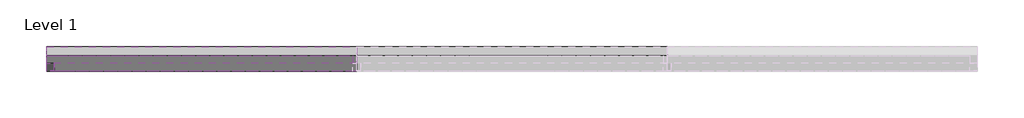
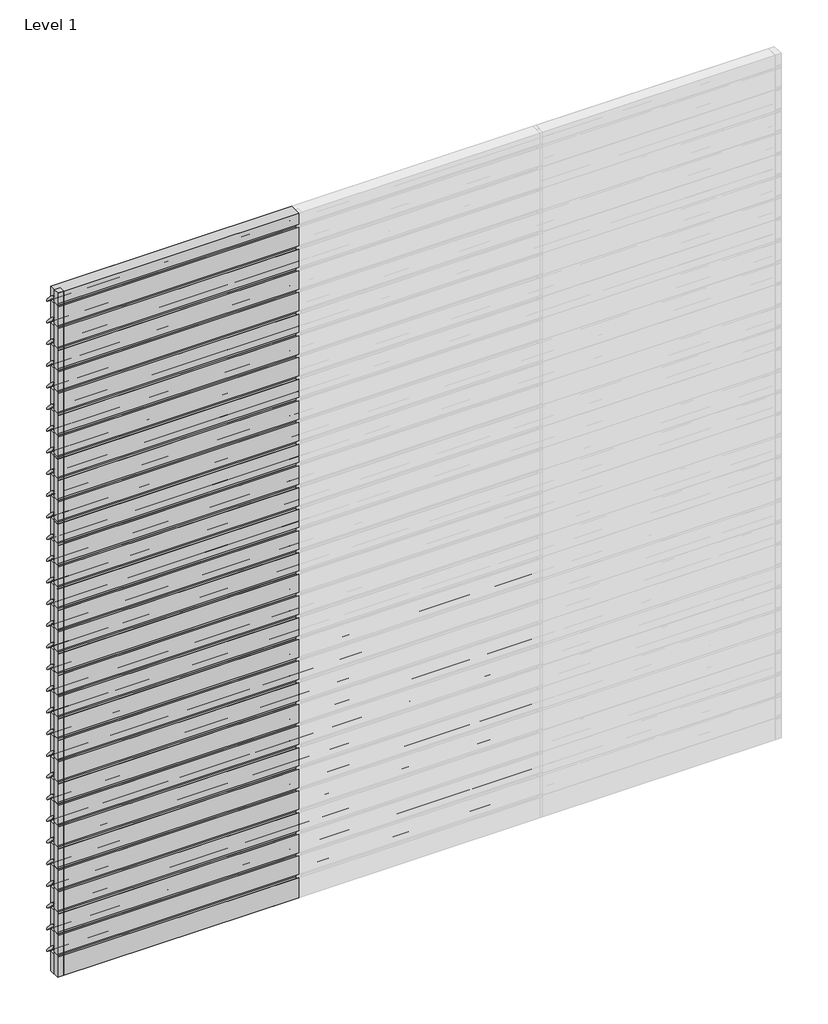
# One storey, part 1 of 3: 74 members, 64 plates.
"""IFC4 building model written with IfcOpenShell, lengths in millimetres."""

from ifc_helpers import new_model, si_unit, origin, place, context, project, spatial, transform, mapped, element, save
from components import rectangular_mullion_8734c8a8, rectangular_mullion_768f3252, rectangular_mullion_077c8cc5, empty_system_panel_empty_0e8c6ffc, empty_system_panel_empty_bbeb8583, empty_system_panel_empty_e07de6c1, empty_system_panel_empty_83ec7203, empty_system_panel_empty_71fd4c2e

model = new_model("IFC4")

# Units and contexts
model_context = context("Model", 3, world=origin())
ifc_project = project(units=[si_unit("LENGTHUNIT", "METRE", prefix="MILLI")], contexts=[model_context])

# Site, building, storey
site = spatial("IfcSite", under=ifc_project)
building = spatial("IfcBuilding", under=site)
storey = spatial("IfcBuildingStorey", under=building, Name="Level 1", Elevation=0.0)

# Members
placement = place(None, origin())
rectangular_mullion_shape = rectangular_mullion_8734c8a8(model_context)
element("IfcMember", 1, ObjectType="Rectangular Mullion : RSen_21_CWM_blade - 150 CF_gen_duco projects", at=placement, inside=storey, context=model_context, shape_type="MappedRepresentation", body=[
    mapped(rectangular_mullion_shape, transform((2000.0, 3000.0, 190.0), x_axis=(0.0, 0.0, 1.0), y_axis=(0.0, 1.0, 0.0), z_axis=(-1.0, 0.0, 0.0))),
])
element("IfcMember", 2, ObjectType="Rectangular Mullion : RSen_21_CWM_blade - 150 CF_gen_duco projects", at=placement, inside=storey, context=model_context, shape_type="MappedRepresentation", body=[
    mapped(rectangular_mullion_shape, transform((2000.0, 3000.0, 380.0), x_axis=(0.0, 0.0, 1.0), y_axis=(0.0, 1.0, 0.0), z_axis=(-1.0, 0.0, 0.0))),
])
element("IfcMember", 3, ObjectType="Rectangular Mullion : RSen_21_CWM_blade - 150 CF_gen_duco projects", at=placement, inside=storey, context=model_context, shape_type="MappedRepresentation", body=[
    mapped(rectangular_mullion_shape, transform((2000.0, 3000.0, 570.0), x_axis=(0.0, 0.0, 1.0), y_axis=(0.0, 1.0, 0.0), z_axis=(-1.0, 0.0, 0.0))),
])
element("IfcMember", 4, ObjectType="Rectangular Mullion : RSen_21_CWM_blade - 150 CF_gen_duco projects", at=placement, inside=storey, context=model_context, shape_type="MappedRepresentation", body=[
    mapped(rectangular_mullion_shape, transform((2000.0, 3000.0, 760.0), x_axis=(0.0, 0.0, 1.0), y_axis=(0.0, 1.0, 0.0), z_axis=(-1.0, 0.0, 0.0))),
])
element("IfcMember", 5, ObjectType="Rectangular Mullion : RSen_21_CWM_blade - 150 CF_gen_duco projects", at=placement, inside=storey, context=model_context, shape_type="MappedRepresentation", body=[
    mapped(rectangular_mullion_shape, transform((2000.0, 3000.0, 950.0), x_axis=(0.0, 0.0, 1.0), y_axis=(0.0, 1.0, 0.0), z_axis=(-1.0, 0.0, 0.0))),
])
element("IfcMember", 6, ObjectType="Rectangular Mullion : RSen_21_CWM_blade - 150 CF_gen_duco projects", at=placement, inside=storey, context=model_context, shape_type="MappedRepresentation", body=[
    mapped(rectangular_mullion_shape, transform((2000.0, 3000.0, 1140.0), x_axis=(0.0, 0.0, 1.0), y_axis=(0.0, 1.0, 0.0), z_axis=(-1.0, 0.0, 0.0))),
])
element("IfcMember", 7, ObjectType="Rectangular Mullion : RSen_21_CWM_blade - 150 CF_gen_duco projects", at=placement, inside=storey, context=model_context, shape_type="MappedRepresentation", body=[
    mapped(rectangular_mullion_shape, transform((2000.0, 3000.0, 1330.0), x_axis=(0.0, 0.0, 1.0), y_axis=(0.0, 1.0, 0.0), z_axis=(-1.0, 0.0, 0.0))),
])
element("IfcMember", 8, ObjectType="Rectangular Mullion : RSen_21_CWM_blade - 150 CF_gen_duco projects", at=placement, inside=storey, context=model_context, shape_type="MappedRepresentation", body=[
    mapped(rectangular_mullion_shape, transform((2000.0, 3000.0, 1520.0), x_axis=(0.0, 0.0, 1.0), y_axis=(0.0, 1.0, 0.0), z_axis=(-1.0, 0.0, 0.0))),
])
element("IfcMember", 9, ObjectType="Rectangular Mullion : RSen_21_CWM_blade - 150 CF_gen_duco projects", at=placement, inside=storey, context=model_context, shape_type="MappedRepresentation", body=[
    mapped(rectangular_mullion_shape, transform((2000.0, 3000.0, 1710.0), x_axis=(0.0, 0.0, 1.0), y_axis=(0.0, 1.0, 0.0), z_axis=(-1.0, 0.0, 0.0))),
])
element("IfcMember", 10, ObjectType="Rectangular Mullion : RSen_21_CWM_blade - 150 CF_gen_duco projects", at=placement, inside=storey, context=model_context, shape_type="MappedRepresentation", body=[
    mapped(rectangular_mullion_shape, transform((2000.0, 3000.0, 1900.0), x_axis=(0.0, 0.0, 1.0), y_axis=(0.0, 1.0, 0.0), z_axis=(-1.0, 0.0, 0.0))),
])
element("IfcMember", 11, ObjectType="Rectangular Mullion : RSen_21_CWM_blade - 150 CF_gen_duco projects", at=placement, inside=storey, context=model_context, shape_type="MappedRepresentation", body=[
    mapped(rectangular_mullion_shape, transform((2000.0, 3000.0, 2090.0), x_axis=(0.0, 0.0, 1.0), y_axis=(0.0, 1.0, 0.0), z_axis=(-1.0, 0.0, 0.0))),
])
element("IfcMember", 12, ObjectType="Rectangular Mullion : RSen_21_CWM_blade - 150 CF_gen_duco projects", at=placement, inside=storey, context=model_context, shape_type="MappedRepresentation", body=[
    mapped(rectangular_mullion_shape, transform((0.0, 3000.0, 190.0), x_axis=(0.0, 0.0, 1.0), y_axis=(0.0, 1.0, 0.0), z_axis=(-1.0, 0.0, 0.0))),
])
element("IfcMember", 13, ObjectType="Rectangular Mullion : RSen_21_CWM_blade - 150 CF_gen_duco projects", at=placement, inside=storey, context=model_context, shape_type="MappedRepresentation", body=[
    mapped(rectangular_mullion_shape, transform((0.0, 3000.0, 380.0), x_axis=(0.0, 0.0, 1.0), y_axis=(0.0, 1.0, 0.0), z_axis=(-1.0, 0.0, 0.0))),
])
element("IfcMember", 14, ObjectType="Rectangular Mullion : RSen_21_CWM_blade - 150 CF_gen_duco projects", at=placement, inside=storey, context=model_context, shape_type="MappedRepresentation", body=[
    mapped(rectangular_mullion_shape, transform((0.0, 3000.0, 570.0), x_axis=(0.0, 0.0, 1.0), y_axis=(0.0, 1.0, 0.0), z_axis=(-1.0, 0.0, 0.0))),
])
element("IfcMember", 15, ObjectType="Rectangular Mullion : RSen_21_CWM_blade - 150 CF_gen_duco projects", at=placement, inside=storey, context=model_context, shape_type="MappedRepresentation", body=[
    mapped(rectangular_mullion_shape, transform((0.0, 3000.0, 760.0), x_axis=(0.0, 0.0, 1.0), y_axis=(0.0, 1.0, 0.0), z_axis=(-1.0, 0.0, 0.0))),
])
element("IfcMember", 16, ObjectType="Rectangular Mullion : RSen_21_CWM_blade - 150 CF_gen_duco projects", at=placement, inside=storey, context=model_context, shape_type="MappedRepresentation", body=[
    mapped(rectangular_mullion_shape, transform((0.0, 3000.0, 950.0), x_axis=(0.0, 0.0, 1.0), y_axis=(0.0, 1.0, 0.0), z_axis=(-1.0, 0.0, 0.0))),
])
element("IfcMember", 17, ObjectType="Rectangular Mullion : RSen_21_CWM_blade - 150 CF_gen_duco projects", at=placement, inside=storey, context=model_context, shape_type="MappedRepresentation", body=[
    mapped(rectangular_mullion_shape, transform((0.0, 3000.0, 1140.0), x_axis=(0.0, 0.0, 1.0), y_axis=(0.0, 1.0, 0.0), z_axis=(-1.0, 0.0, 0.0))),
])
element("IfcMember", 18, ObjectType="Rectangular Mullion : RSen_21_CWM_blade - 150 CF_gen_duco projects", at=placement, inside=storey, context=model_context, shape_type="MappedRepresentation", body=[
    mapped(rectangular_mullion_shape, transform((0.0, 3000.0, 1330.0), x_axis=(0.0, 0.0, 1.0), y_axis=(0.0, 1.0, 0.0), z_axis=(-1.0, 0.0, 0.0))),
])
element("IfcMember", 19, ObjectType="Rectangular Mullion : RSen_21_CWM_blade - 150 CF_gen_duco projects", at=placement, inside=storey, context=model_context, shape_type="MappedRepresentation", body=[
    mapped(rectangular_mullion_shape, transform((0.0, 3000.0, 1520.0), x_axis=(0.0, 0.0, 1.0), y_axis=(0.0, 1.0, 0.0), z_axis=(-1.0, 0.0, 0.0))),
])
element("IfcMember", 20, ObjectType="Rectangular Mullion : RSen_21_CWM_blade - 150 CF_gen_duco projects", at=placement, inside=storey, context=model_context, shape_type="MappedRepresentation", body=[
    mapped(rectangular_mullion_shape, transform((0.0, 3000.0, 1710.0), x_axis=(0.0, 0.0, 1.0), y_axis=(0.0, 1.0, 0.0), z_axis=(-1.0, 0.0, 0.0))),
])
element("IfcMember", 21, ObjectType="Rectangular Mullion : RSen_21_CWM_blade - 150 CF_gen_duco projects", at=placement, inside=storey, context=model_context, shape_type="MappedRepresentation", body=[
    mapped(rectangular_mullion_shape, transform((0.0, 3000.0, 1900.0), x_axis=(0.0, 0.0, 1.0), y_axis=(0.0, 1.0, 0.0), z_axis=(-1.0, 0.0, 0.0))),
])
element("IfcMember", 22, ObjectType="Rectangular Mullion : RSen_21_CWM_blade - 150 CF_gen_duco projects", at=placement, inside=storey, context=model_context, shape_type="MappedRepresentation", body=[
    mapped(rectangular_mullion_shape, transform((0.0, 3000.0, 2090.0), x_axis=(0.0, 0.0, 1.0), y_axis=(0.0, 1.0, 0.0), z_axis=(-1.0, 0.0, 0.0))),
])
element("IfcMember", 23, ObjectType="Rectangular Mullion : RSen_21_CWM_blade - 150 CF_gen_duco projects", at=placement, inside=storey, context=model_context, shape_type="MappedRepresentation", body=[
    mapped(rectangular_mullion_shape, transform((0.0, 3000.0, 2280.0), x_axis=(0.0, 0.0, 1.0), y_axis=(0.0, 1.0, 0.0), z_axis=(-1.0, 0.0, 0.0))),
])
element("IfcMember", 24, ObjectType="Rectangular Mullion : RSen_21_CWM_blade - 150 CF_gen_duco projects", at=placement, inside=storey, context=model_context, shape_type="MappedRepresentation", body=[
    mapped(rectangular_mullion_shape, transform((0.0, 3000.0, 2470.0), x_axis=(0.0, 0.0, 1.0), y_axis=(0.0, 1.0, 0.0), z_axis=(-1.0, 0.0, 0.0))),
])
element("IfcMember", 25, ObjectType="Rectangular Mullion : RSen_21_CWM_blade - 150 CF_gen_duco projects", at=placement, inside=storey, context=model_context, shape_type="MappedRepresentation", body=[
    mapped(rectangular_mullion_shape, transform((0.0, 3000.0, 2660.0), x_axis=(0.0, 0.0, 1.0), y_axis=(0.0, 1.0, 0.0), z_axis=(-1.0, 0.0, 0.0))),
])
element("IfcMember", 26, ObjectType="Rectangular Mullion : RSen_21_CWM_blade - 150 CF_gen_duco projects", at=placement, inside=storey, context=model_context, shape_type="MappedRepresentation", body=[
    mapped(rectangular_mullion_shape, transform((0.0, 3000.0, 2850.0), x_axis=(0.0, 0.0, 1.0), y_axis=(0.0, 1.0, 0.0), z_axis=(-1.0, 0.0, 0.0))),
])
element("IfcMember", 27, ObjectType="Rectangular Mullion : RSen_21_CWM_blade - 150 CF_gen_duco projects", at=placement, inside=storey, context=model_context, shape_type="MappedRepresentation", body=[
    mapped(rectangular_mullion_shape, transform((0.0, 3000.0, 3040.0), x_axis=(0.0, 0.0, 1.0), y_axis=(0.0, 1.0, 0.0), z_axis=(-1.0, 0.0, 0.0))),
])
element("IfcMember", 28, ObjectType="Rectangular Mullion : RSen_21_CWM_blade - 150 CF_gen_duco projects", at=placement, inside=storey, context=model_context, shape_type="MappedRepresentation", body=[
    mapped(rectangular_mullion_shape, transform((0.0, 3000.0, 3230.0), x_axis=(0.0, 0.0, 1.0), y_axis=(0.0, 1.0, 0.0), z_axis=(-1.0, 0.0, 0.0))),
])
element("IfcMember", 29, ObjectType="Rectangular Mullion : RSen_21_CWM_blade - 150 CF_gen_duco projects", at=placement, inside=storey, context=model_context, shape_type="MappedRepresentation", body=[
    mapped(rectangular_mullion_shape, transform((0.0, 3000.0, 3420.0), x_axis=(0.0, 0.0, 1.0), y_axis=(0.0, 1.0, 0.0), z_axis=(-1.0, 0.0, 0.0))),
])
element("IfcMember", 30, ObjectType="Rectangular Mullion : RSen_21_CWM_blade - 150 CF_gen_duco projects", at=placement, inside=storey, context=model_context, shape_type="MappedRepresentation", body=[
    mapped(rectangular_mullion_shape, transform((0.0, 3000.0, 3610.0), x_axis=(0.0, 0.0, 1.0), y_axis=(0.0, 1.0, 0.0), z_axis=(-1.0, 0.0, 0.0))),
])
element("IfcMember", 31, ObjectType="Rectangular Mullion : RSen_21_CWM_blade - 150 CF_gen_duco projects", at=placement, inside=storey, context=model_context, shape_type="MappedRepresentation", body=[
    mapped(rectangular_mullion_shape, transform((0.0, 3000.0, 3800.0), x_axis=(0.0, 0.0, 1.0), y_axis=(0.0, 1.0, 0.0), z_axis=(-1.0, 0.0, 0.0))),
])
element("IfcMember", 32, ObjectType="Rectangular Mullion : RSen_21_CWM_blade - 150 CF_gen_duco projects", at=placement, inside=storey, context=model_context, shape_type="MappedRepresentation", body=[
    mapped(rectangular_mullion_shape, transform((0.0, 3000.0, 3990.0), x_axis=(0.0, 0.0, 1.0), y_axis=(0.0, 1.0, 0.0), z_axis=(-1.0, 0.0, 0.0))),
])
element("IfcMember", 33, ObjectType="Rectangular Mullion : RSen_21_CWM_blade - 150 CF_gen_duco projects", at=placement, inside=storey, context=model_context, shape_type="MappedRepresentation", body=[
    mapped(rectangular_mullion_shape, transform((0.0, 3000.0, 4180.0), x_axis=(0.0, 0.0, 1.0), y_axis=(0.0, 1.0, 0.0), z_axis=(-1.0, 0.0, 0.0))),
])
element("IfcMember", 34, ObjectType="Rectangular Mullion : RSen_21_CWM_blade - 150 CF_gen_duco projects", at=placement, inside=storey, context=model_context, shape_type="MappedRepresentation", body=[
    mapped(rectangular_mullion_shape, transform((0.0, 3000.0, 4370.0), x_axis=(0.0, 0.0, 1.0), y_axis=(0.0, 1.0, 0.0), z_axis=(-1.0, 0.0, 0.0))),
])
element("IfcMember", 35, ObjectType="Rectangular Mullion : RSen_21_CWM_blade - 150 CF_gen_duco projects", at=placement, inside=storey, context=model_context, shape_type="MappedRepresentation", body=[
    mapped(rectangular_mullion_shape, transform((0.0, 3000.0, 4560.0), x_axis=(0.0, 0.0, 1.0), y_axis=(0.0, 1.0, 0.0), z_axis=(-1.0, 0.0, 0.0))),
])
element("IfcMember", 36, ObjectType="Rectangular Mullion : RSen_21_CWM_blade - 150 CF_gen_duco projects", at=placement, inside=storey, context=model_context, shape_type="MappedRepresentation", body=[
    mapped(rectangular_mullion_shape, transform((0.0, 3000.0, 4750.0), x_axis=(0.0, 0.0, 1.0), y_axis=(0.0, 1.0, 0.0), z_axis=(-1.0, 0.0, 0.0))),
])
element("IfcMember", 37, ObjectType="Rectangular Mullion : RSen_21_CWM_blade - 150 CF_gen_duco projects", at=placement, inside=storey, context=model_context, shape_type="MappedRepresentation", body=[
    mapped(rectangular_mullion_shape, transform((0.0, 3000.0, 4940.0), x_axis=(0.0, 0.0, 1.0), y_axis=(0.0, 1.0, 0.0), z_axis=(-1.0, 0.0, 0.0))),
])
element("IfcMember", 38, ObjectType="Rectangular Mullion : RSen_21_CWM_blade - 150 CF_gen_duco projects", at=placement, inside=storey, context=model_context, shape_type="MappedRepresentation", body=[
    mapped(rectangular_mullion_shape, transform((0.0, 3000.0, 5130.0), x_axis=(0.0, 0.0, 1.0), y_axis=(0.0, 1.0, 0.0), z_axis=(-1.0, 0.0, 0.0))),
])
element("IfcMember", 39, ObjectType="Rectangular Mullion : RSen_21_CWM_blade - 150 CF_gen_duco projects", at=placement, inside=storey, context=model_context, shape_type="MappedRepresentation", body=[
    mapped(rectangular_mullion_shape, transform((0.0, 3000.0, 5320.0), x_axis=(0.0, 0.0, 1.0), y_axis=(0.0, 1.0, 0.0), z_axis=(-1.0, 0.0, 0.0))),
])
element("IfcMember", 40, ObjectType="Rectangular Mullion : RSen_21_CWM_blade - 150 CF_gen_duco projects", at=placement, inside=storey, context=model_context, shape_type="MappedRepresentation", body=[
    mapped(rectangular_mullion_shape, transform((0.0, 3000.0, 5510.0), x_axis=(0.0, 0.0, 1.0), y_axis=(0.0, 1.0, 0.0), z_axis=(-1.0, 0.0, 0.0))),
])
element("IfcMember", 41, ObjectType="Rectangular Mullion : RSen_21_CWM_blade - 150 CF_gen_duco projects", at=placement, inside=storey, context=model_context, shape_type="MappedRepresentation", body=[
    mapped(rectangular_mullion_shape, transform((0.0, 3000.0, 5700.0), x_axis=(0.0, 0.0, 1.0), y_axis=(0.0, 1.0, 0.0), z_axis=(-1.0, 0.0, 0.0))),
])
element("IfcMember", 42, ObjectType="Rectangular Mullion : RSen_21_CWM_blade - 150 CF_gen_duco projects", at=placement, inside=storey, context=model_context, shape_type="MappedRepresentation", body=[
    mapped(rectangular_mullion_shape, transform((0.0, 3000.0, 5890.0), x_axis=(0.0, 0.0, 1.0), y_axis=(0.0, 1.0, 0.0), z_axis=(-1.0, 0.0, 0.0))),
])
rectangular_mullion_2_shape = rectangular_mullion_768f3252(model_context)
element("IfcMember", 43, ObjectType="Rectangular Mullion : RSen_21_CWM_support profile 50x50 - left_gen_duco projects", at=placement, inside=storey, context=model_context, shape_type="MappedRepresentation", body=[
    mapped(rectangular_mullion_2_shape, transform((0.0, 3000.0, 0.0), x_axis=(-1.0, 0.0, 0.0), y_axis=(0.0, 1.0, 0.0), z_axis=(0.0, 0.0, -1.0))),
])
element("IfcMember", 44, ObjectType="Rectangular Mullion : RSen_21_CWM_support profile 50x50 - left_gen_duco projects", at=placement, inside=storey, context=model_context, shape_type="MappedRepresentation", body=[
    mapped(rectangular_mullion_2_shape, transform((0.0, 3000.0, 190.0), x_axis=(-1.0, 0.0, 0.0), y_axis=(0.0, 1.0, 0.0), z_axis=(0.0, 0.0, -1.0))),
])
element("IfcMember", 45, ObjectType="Rectangular Mullion : RSen_21_CWM_support profile 50x50 - left_gen_duco projects", at=placement, inside=storey, context=model_context, shape_type="MappedRepresentation", body=[
    mapped(rectangular_mullion_2_shape, transform((0.0, 3000.0, 380.0), x_axis=(-1.0, 0.0, 0.0), y_axis=(0.0, 1.0, 0.0), z_axis=(0.0, 0.0, -1.0))),
])
element("IfcMember", 46, ObjectType="Rectangular Mullion : RSen_21_CWM_support profile 50x50 - left_gen_duco projects", at=placement, inside=storey, context=model_context, shape_type="MappedRepresentation", body=[
    mapped(rectangular_mullion_2_shape, transform((0.0, 3000.0, 570.0), x_axis=(-1.0, 0.0, 0.0), y_axis=(0.0, 1.0, 0.0), z_axis=(0.0, 0.0, -1.0))),
])
element("IfcMember", 47, ObjectType="Rectangular Mullion : RSen_21_CWM_support profile 50x50 - left_gen_duco projects", at=placement, inside=storey, context=model_context, shape_type="MappedRepresentation", body=[
    mapped(rectangular_mullion_2_shape, transform((0.0, 3000.0, 760.0), x_axis=(-1.0, 0.0, 0.0), y_axis=(0.0, 1.0, 0.0), z_axis=(0.0, 0.0, -1.0))),
])
element("IfcMember", 48, ObjectType="Rectangular Mullion : RSen_21_CWM_support profile 50x50 - left_gen_duco projects", at=placement, inside=storey, context=model_context, shape_type="MappedRepresentation", body=[
    mapped(rectangular_mullion_2_shape, transform((0.0, 3000.0, 950.0), x_axis=(-1.0, 0.0, 0.0), y_axis=(0.0, 1.0, 0.0), z_axis=(0.0, 0.0, -1.0))),
])
element("IfcMember", 49, ObjectType="Rectangular Mullion : RSen_21_CWM_support profile 50x50 - left_gen_duco projects", at=placement, inside=storey, context=model_context, shape_type="MappedRepresentation", body=[
    mapped(rectangular_mullion_2_shape, transform((0.0, 3000.0, 1140.0), x_axis=(-1.0, 0.0, 0.0), y_axis=(0.0, 1.0, 0.0), z_axis=(0.0, 0.0, -1.0))),
])
element("IfcMember", 50, ObjectType="Rectangular Mullion : RSen_21_CWM_support profile 50x50 - left_gen_duco projects", at=placement, inside=storey, context=model_context, shape_type="MappedRepresentation", body=[
    mapped(rectangular_mullion_2_shape, transform((0.0, 3000.0, 1330.0), x_axis=(-1.0, 0.0, 0.0), y_axis=(0.0, 1.0, 0.0), z_axis=(0.0, 0.0, -1.0))),
])
element("IfcMember", 51, ObjectType="Rectangular Mullion : RSen_21_CWM_support profile 50x50 - left_gen_duco projects", at=placement, inside=storey, context=model_context, shape_type="MappedRepresentation", body=[
    mapped(rectangular_mullion_2_shape, transform((0.0, 3000.0, 1520.0), x_axis=(-1.0, 0.0, 0.0), y_axis=(0.0, 1.0, 0.0), z_axis=(0.0, 0.0, -1.0))),
])
element("IfcMember", 52, ObjectType="Rectangular Mullion : RSen_21_CWM_support profile 50x50 - left_gen_duco projects", at=placement, inside=storey, context=model_context, shape_type="MappedRepresentation", body=[
    mapped(rectangular_mullion_2_shape, transform((0.0, 3000.0, 1710.0), x_axis=(-1.0, 0.0, 0.0), y_axis=(0.0, 1.0, 0.0), z_axis=(0.0, 0.0, -1.0))),
])
element("IfcMember", 53, ObjectType="Rectangular Mullion : RSen_21_CWM_support profile 50x50 - left_gen_duco projects", at=placement, inside=storey, context=model_context, shape_type="MappedRepresentation", body=[
    mapped(rectangular_mullion_2_shape, transform((0.0, 3000.0, 1900.0), x_axis=(-1.0, 0.0, 0.0), y_axis=(0.0, 1.0, 0.0), z_axis=(0.0, 0.0, -1.0))),
])
element("IfcMember", 54, ObjectType="Rectangular Mullion : RSen_21_CWM_support profile 50x50 - left_gen_duco projects", at=placement, inside=storey, context=model_context, shape_type="MappedRepresentation", body=[
    mapped(rectangular_mullion_2_shape, transform((0.0, 3000.0, 2090.0), x_axis=(-1.0, 0.0, 0.0), y_axis=(0.0, 1.0, 0.0), z_axis=(0.0, 0.0, -1.0))),
])
element("IfcMember", 55, ObjectType="Rectangular Mullion : RSen_21_CWM_support profile 50x50 - left_gen_duco projects", at=placement, inside=storey, context=model_context, shape_type="MappedRepresentation", body=[
    mapped(rectangular_mullion_2_shape, transform((0.0, 3000.0, 2280.0), x_axis=(-1.0, 0.0, 0.0), y_axis=(0.0, 1.0, 0.0), z_axis=(0.0, 0.0, -1.0))),
])
element("IfcMember", 56, ObjectType="Rectangular Mullion : RSen_21_CWM_support profile 50x50 - left_gen_duco projects", at=placement, inside=storey, context=model_context, shape_type="MappedRepresentation", body=[
    mapped(rectangular_mullion_2_shape, transform((0.0, 3000.0, 2470.0), x_axis=(-1.0, 0.0, 0.0), y_axis=(0.0, 1.0, 0.0), z_axis=(0.0, 0.0, -1.0))),
])
element("IfcMember", 57, ObjectType="Rectangular Mullion : RSen_21_CWM_support profile 50x50 - left_gen_duco projects", at=placement, inside=storey, context=model_context, shape_type="MappedRepresentation", body=[
    mapped(rectangular_mullion_2_shape, transform((0.0, 3000.0, 2660.0), x_axis=(-1.0, 0.0, 0.0), y_axis=(0.0, 1.0, 0.0), z_axis=(0.0, 0.0, -1.0))),
])
element("IfcMember", 58, ObjectType="Rectangular Mullion : RSen_21_CWM_support profile 50x50 - left_gen_duco projects", at=placement, inside=storey, context=model_context, shape_type="MappedRepresentation", body=[
    mapped(rectangular_mullion_2_shape, transform((0.0, 3000.0, 2850.0), x_axis=(-1.0, 0.0, 0.0), y_axis=(0.0, 1.0, 0.0), z_axis=(0.0, 0.0, -1.0))),
])
element("IfcMember", 59, ObjectType="Rectangular Mullion : RSen_21_CWM_support profile 50x50 - left_gen_duco projects", at=placement, inside=storey, context=model_context, shape_type="MappedRepresentation", body=[
    mapped(rectangular_mullion_2_shape, transform((0.0, 3000.0, 3040.0), x_axis=(-1.0, 0.0, 0.0), y_axis=(0.0, 1.0, 0.0), z_axis=(0.0, 0.0, -1.0))),
])
element("IfcMember", 60, ObjectType="Rectangular Mullion : RSen_21_CWM_support profile 50x50 - left_gen_duco projects", at=placement, inside=storey, context=model_context, shape_type="MappedRepresentation", body=[
    mapped(rectangular_mullion_2_shape, transform((0.0, 3000.0, 3230.0), x_axis=(-1.0, 0.0, 0.0), y_axis=(0.0, 1.0, 0.0), z_axis=(0.0, 0.0, -1.0))),
])
element("IfcMember", 61, ObjectType="Rectangular Mullion : RSen_21_CWM_support profile 50x50 - left_gen_duco projects", at=placement, inside=storey, context=model_context, shape_type="MappedRepresentation", body=[
    mapped(rectangular_mullion_2_shape, transform((0.0, 3000.0, 3420.0), x_axis=(-1.0, 0.0, 0.0), y_axis=(0.0, 1.0, 0.0), z_axis=(0.0, 0.0, -1.0))),
])
element("IfcMember", 62, ObjectType="Rectangular Mullion : RSen_21_CWM_support profile 50x50 - left_gen_duco projects", at=placement, inside=storey, context=model_context, shape_type="MappedRepresentation", body=[
    mapped(rectangular_mullion_2_shape, transform((0.0, 3000.0, 3610.0), x_axis=(-1.0, 0.0, 0.0), y_axis=(0.0, 1.0, 0.0), z_axis=(0.0, 0.0, -1.0))),
])
element("IfcMember", 63, ObjectType="Rectangular Mullion : RSen_21_CWM_support profile 50x50 - left_gen_duco projects", at=placement, inside=storey, context=model_context, shape_type="MappedRepresentation", body=[
    mapped(rectangular_mullion_2_shape, transform((0.0, 3000.0, 3800.0), x_axis=(-1.0, 0.0, 0.0), y_axis=(0.0, 1.0, 0.0), z_axis=(0.0, 0.0, -1.0))),
])
element("IfcMember", 64, ObjectType="Rectangular Mullion : RSen_21_CWM_support profile 50x50 - left_gen_duco projects", at=placement, inside=storey, context=model_context, shape_type="MappedRepresentation", body=[
    mapped(rectangular_mullion_2_shape, transform((0.0, 3000.0, 3990.0), x_axis=(-1.0, 0.0, 0.0), y_axis=(0.0, 1.0, 0.0), z_axis=(0.0, 0.0, -1.0))),
])
element("IfcMember", 65, ObjectType="Rectangular Mullion : RSen_21_CWM_support profile 50x50 - left_gen_duco projects", at=placement, inside=storey, context=model_context, shape_type="MappedRepresentation", body=[
    mapped(rectangular_mullion_2_shape, transform((0.0, 3000.0, 4180.0), x_axis=(-1.0, 0.0, 0.0), y_axis=(0.0, 1.0, 0.0), z_axis=(0.0, 0.0, -1.0))),
])
element("IfcMember", 66, ObjectType="Rectangular Mullion : RSen_21_CWM_support profile 50x50 - left_gen_duco projects", at=placement, inside=storey, context=model_context, shape_type="MappedRepresentation", body=[
    mapped(rectangular_mullion_2_shape, transform((0.0, 3000.0, 4370.0), x_axis=(-1.0, 0.0, 0.0), y_axis=(0.0, 1.0, 0.0), z_axis=(0.0, 0.0, -1.0))),
])
element("IfcMember", 67, ObjectType="Rectangular Mullion : RSen_21_CWM_support profile 50x50 - left_gen_duco projects", at=placement, inside=storey, context=model_context, shape_type="MappedRepresentation", body=[
    mapped(rectangular_mullion_2_shape, transform((0.0, 3000.0, 4560.0), x_axis=(-1.0, 0.0, 0.0), y_axis=(0.0, 1.0, 0.0), z_axis=(0.0, 0.0, -1.0))),
])
element("IfcMember", 68, ObjectType="Rectangular Mullion : RSen_21_CWM_support profile 50x50 - left_gen_duco projects", at=placement, inside=storey, context=model_context, shape_type="MappedRepresentation", body=[
    mapped(rectangular_mullion_2_shape, transform((0.0, 3000.0, 4750.0), x_axis=(-1.0, 0.0, 0.0), y_axis=(0.0, 1.0, 0.0), z_axis=(0.0, 0.0, -1.0))),
])
element("IfcMember", 69, ObjectType="Rectangular Mullion : RSen_21_CWM_support profile 50x50 - left_gen_duco projects", at=placement, inside=storey, context=model_context, shape_type="MappedRepresentation", body=[
    mapped(rectangular_mullion_2_shape, transform((0.0, 3000.0, 4940.0), x_axis=(-1.0, 0.0, 0.0), y_axis=(0.0, 1.0, 0.0), z_axis=(0.0, 0.0, -1.0))),
])
element("IfcMember", 70, ObjectType="Rectangular Mullion : RSen_21_CWM_support profile 50x50 - left_gen_duco projects", at=placement, inside=storey, context=model_context, shape_type="MappedRepresentation", body=[
    mapped(rectangular_mullion_2_shape, transform((0.0, 3000.0, 5130.0), x_axis=(-1.0, 0.0, 0.0), y_axis=(0.0, 1.0, 0.0), z_axis=(0.0, 0.0, -1.0))),
])
element("IfcMember", 71, ObjectType="Rectangular Mullion : RSen_21_CWM_support profile 50x50 - left_gen_duco projects", at=placement, inside=storey, context=model_context, shape_type="MappedRepresentation", body=[
    mapped(rectangular_mullion_2_shape, transform((0.0, 3000.0, 5320.0), x_axis=(-1.0, 0.0, 0.0), y_axis=(0.0, 1.0, 0.0), z_axis=(0.0, 0.0, -1.0))),
])
element("IfcMember", 72, ObjectType="Rectangular Mullion : RSen_21_CWM_support profile 50x50 - left_gen_duco projects", at=placement, inside=storey, context=model_context, shape_type="MappedRepresentation", body=[
    mapped(rectangular_mullion_2_shape, transform((0.0, 3000.0, 5510.0), x_axis=(-1.0, 0.0, 0.0), y_axis=(0.0, 1.0, 0.0), z_axis=(0.0, 0.0, -1.0))),
])
element("IfcMember", 73, ObjectType="Rectangular Mullion : RSen_21_CWM_support profile 50x50 - left_gen_duco projects", at=placement, inside=storey, context=model_context, shape_type="MappedRepresentation", body=[
    mapped(rectangular_mullion_2_shape, transform((0.0, 3000.0, 5700.0), x_axis=(-1.0, 0.0, 0.0), y_axis=(0.0, 1.0, 0.0), z_axis=(0.0, 0.0, -1.0))),
])
rectangular_mullion_3_shape = rectangular_mullion_077c8cc5(model_context)
element("IfcMember", 74, ObjectType="Rectangular Mullion : RSen_21_CWM_support profile 50x50 - left_gen_duco projects", at=placement, inside=storey, context=model_context, shape_type="MappedRepresentation", body=[
    mapped(rectangular_mullion_3_shape, transform((0.0, 3000.0, 5890.0), x_axis=(-1.0, 0.0, 0.0), y_axis=(0.0, 1.0, 0.0), z_axis=(0.0, 0.0, -1.0))),
])

# Plates
empty_system_panel_empty_shape = empty_system_panel_empty_0e8c6ffc(model_context)
element("IfcPlate", 75, ObjectType="Empty System Panel : Empty", at=placement, inside=storey, context=model_context, shape_type="MappedRepresentation", body=[
    mapped(empty_system_panel_empty_shape, transform((1000.0, 3000.0, 0.0), x_axis=(-1.0, 0.0, 0.0), y_axis=(0.0, -1.0, 0.0), z_axis=(0.0, 0.0, 1.0))),
])
empty_system_panel_empty_2_shape = empty_system_panel_empty_bbeb8583(model_context)
element("IfcPlate", 76, ObjectType="Empty System Panel : Empty", at=placement, inside=storey, context=model_context, shape_type="MappedRepresentation", body=[
    mapped(empty_system_panel_empty_2_shape, transform((1000.0, 3000.0, 204.8492424), x_axis=(-1.0, 0.0, 0.0), y_axis=(0.0, -1.0, 0.0), z_axis=(0.0, 0.0, 1.0))),
])
element("IfcPlate", 77, ObjectType="Empty System Panel : Empty", at=placement, inside=storey, context=model_context, shape_type="MappedRepresentation", body=[
    mapped(empty_system_panel_empty_2_shape, transform((1000.0, 3000.0, 394.8492424), x_axis=(-1.0, 0.0, 0.0), y_axis=(0.0, -1.0, 0.0), z_axis=(0.0, 0.0, 1.0))),
])
element("IfcPlate", 78, ObjectType="Empty System Panel : Empty", at=placement, inside=storey, context=model_context, shape_type="MappedRepresentation", body=[
    mapped(empty_system_panel_empty_2_shape, transform((1000.0, 3000.0, 584.8492424), x_axis=(-1.0, 0.0, 0.0), y_axis=(0.0, -1.0, 0.0), z_axis=(0.0, 0.0, 1.0))),
])
element("IfcPlate", 79, ObjectType="Empty System Panel : Empty", at=placement, inside=storey, context=model_context, shape_type="MappedRepresentation", body=[
    mapped(empty_system_panel_empty_2_shape, transform((1000.0, 3000.0, 774.8492424), x_axis=(-1.0, 0.0, 0.0), y_axis=(0.0, -1.0, 0.0), z_axis=(0.0, 0.0, 1.0))),
])
element("IfcPlate", 80, ObjectType="Empty System Panel : Empty", at=placement, inside=storey, context=model_context, shape_type="MappedRepresentation", body=[
    mapped(empty_system_panel_empty_2_shape, transform((1000.0, 3000.0, 964.8492424), x_axis=(-1.0, 0.0, 0.0), y_axis=(0.0, -1.0, 0.0), z_axis=(0.0, 0.0, 1.0))),
])
element("IfcPlate", 81, ObjectType="Empty System Panel : Empty", at=placement, inside=storey, context=model_context, shape_type="MappedRepresentation", body=[
    mapped(empty_system_panel_empty_2_shape, transform((1000.0, 3000.0, 1154.8492424), x_axis=(-1.0, 0.0, 0.0), y_axis=(0.0, -1.0, 0.0), z_axis=(0.0, 0.0, 1.0))),
])
element("IfcPlate", 82, ObjectType="Empty System Panel : Empty", at=placement, inside=storey, context=model_context, shape_type="MappedRepresentation", body=[
    mapped(empty_system_panel_empty_2_shape, transform((1000.0, 3000.0, 1344.8492424), x_axis=(-1.0, 0.0, 0.0), y_axis=(0.0, -1.0, 0.0), z_axis=(0.0, 0.0, 1.0))),
])
element("IfcPlate", 83, ObjectType="Empty System Panel : Empty", at=placement, inside=storey, context=model_context, shape_type="MappedRepresentation", body=[
    mapped(empty_system_panel_empty_2_shape, transform((1000.0, 3000.0, 1534.8492424), x_axis=(-1.0, 0.0, 0.0), y_axis=(0.0, -1.0, 0.0), z_axis=(0.0, 0.0, 1.0))),
])
element("IfcPlate", 84, ObjectType="Empty System Panel : Empty", at=placement, inside=storey, context=model_context, shape_type="MappedRepresentation", body=[
    mapped(empty_system_panel_empty_2_shape, transform((1000.0, 3000.0, 1724.8492424), x_axis=(-1.0, 0.0, 0.0), y_axis=(0.0, -1.0, 0.0), z_axis=(0.0, 0.0, 1.0))),
])
element("IfcPlate", 85, ObjectType="Empty System Panel : Empty", at=placement, inside=storey, context=model_context, shape_type="MappedRepresentation", body=[
    mapped(empty_system_panel_empty_2_shape, transform((1000.0, 3000.0, 1914.8492424), x_axis=(-1.0, 0.0, 0.0), y_axis=(0.0, -1.0, 0.0), z_axis=(0.0, 0.0, 1.0))),
])
element("IfcPlate", 86, ObjectType="Empty System Panel : Empty", at=placement, inside=storey, context=model_context, shape_type="MappedRepresentation", body=[
    mapped(empty_system_panel_empty_2_shape, transform((1000.0, 3000.0, 2104.8492424), x_axis=(-1.0, 0.0, 0.0), y_axis=(0.0, -1.0, 0.0), z_axis=(0.0, 0.0, 1.0))),
])
element("IfcPlate", 87, ObjectType="Empty System Panel : Empty", at=placement, inside=storey, context=model_context, shape_type="MappedRepresentation", body=[
    mapped(empty_system_panel_empty_2_shape, transform((1000.0, 3000.0, 2294.8492424), x_axis=(-1.0, 0.0, 0.0), y_axis=(0.0, -1.0, 0.0), z_axis=(0.0, 0.0, 1.0))),
])
element("IfcPlate", 88, ObjectType="Empty System Panel : Empty", at=placement, inside=storey, context=model_context, shape_type="MappedRepresentation", body=[
    mapped(empty_system_panel_empty_2_shape, transform((1000.0, 3000.0, 2484.8492424), x_axis=(-1.0, 0.0, 0.0), y_axis=(0.0, -1.0, 0.0), z_axis=(0.0, 0.0, 1.0))),
])
element("IfcPlate", 89, ObjectType="Empty System Panel : Empty", at=placement, inside=storey, context=model_context, shape_type="MappedRepresentation", body=[
    mapped(empty_system_panel_empty_2_shape, transform((1000.0, 3000.0, 2674.8492424), x_axis=(-1.0, 0.0, 0.0), y_axis=(0.0, -1.0, 0.0), z_axis=(0.0, 0.0, 1.0))),
])
element("IfcPlate", 90, ObjectType="Empty System Panel : Empty", at=placement, inside=storey, context=model_context, shape_type="MappedRepresentation", body=[
    mapped(empty_system_panel_empty_2_shape, transform((1000.0, 3000.0, 2864.8492424), x_axis=(-1.0, 0.0, 0.0), y_axis=(0.0, -1.0, 0.0), z_axis=(0.0, 0.0, 1.0))),
])
element("IfcPlate", 91, ObjectType="Empty System Panel : Empty", at=placement, inside=storey, context=model_context, shape_type="MappedRepresentation", body=[
    mapped(empty_system_panel_empty_2_shape, transform((1000.0, 3000.0, 3054.8492424), x_axis=(-1.0, 0.0, 0.0), y_axis=(0.0, -1.0, 0.0), z_axis=(0.0, 0.0, 1.0))),
])
element("IfcPlate", 92, ObjectType="Empty System Panel : Empty", at=placement, inside=storey, context=model_context, shape_type="MappedRepresentation", body=[
    mapped(empty_system_panel_empty_2_shape, transform((1000.0, 3000.0, 3244.8492424), x_axis=(-1.0, 0.0, 0.0), y_axis=(0.0, -1.0, 0.0), z_axis=(0.0, 0.0, 1.0))),
])
element("IfcPlate", 93, ObjectType="Empty System Panel : Empty", at=placement, inside=storey, context=model_context, shape_type="MappedRepresentation", body=[
    mapped(empty_system_panel_empty_2_shape, transform((1000.0, 3000.0, 3434.8492424), x_axis=(-1.0, 0.0, 0.0), y_axis=(0.0, -1.0, 0.0), z_axis=(0.0, 0.0, 1.0))),
])
element("IfcPlate", 94, ObjectType="Empty System Panel : Empty", at=placement, inside=storey, context=model_context, shape_type="MappedRepresentation", body=[
    mapped(empty_system_panel_empty_2_shape, transform((1000.0, 3000.0, 3624.8492424), x_axis=(-1.0, 0.0, 0.0), y_axis=(0.0, -1.0, 0.0), z_axis=(0.0, 0.0, 1.0))),
])
element("IfcPlate", 95, ObjectType="Empty System Panel : Empty", at=placement, inside=storey, context=model_context, shape_type="MappedRepresentation", body=[
    mapped(empty_system_panel_empty_2_shape, transform((1000.0, 3000.0, 3814.8492424), x_axis=(-1.0, 0.0, 0.0), y_axis=(0.0, -1.0, 0.0), z_axis=(0.0, 0.0, 1.0))),
])
element("IfcPlate", 96, ObjectType="Empty System Panel : Empty", at=placement, inside=storey, context=model_context, shape_type="MappedRepresentation", body=[
    mapped(empty_system_panel_empty_2_shape, transform((1000.0, 3000.0, 4004.8492424), x_axis=(-1.0, 0.0, 0.0), y_axis=(0.0, -1.0, 0.0), z_axis=(0.0, 0.0, 1.0))),
])
element("IfcPlate", 97, ObjectType="Empty System Panel : Empty", at=placement, inside=storey, context=model_context, shape_type="MappedRepresentation", body=[
    mapped(empty_system_panel_empty_2_shape, transform((1000.0, 3000.0, 4194.8492424), x_axis=(-1.0, 0.0, 0.0), y_axis=(0.0, -1.0, 0.0), z_axis=(0.0, 0.0, 1.0))),
])
element("IfcPlate", 98, ObjectType="Empty System Panel : Empty", at=placement, inside=storey, context=model_context, shape_type="MappedRepresentation", body=[
    mapped(empty_system_panel_empty_2_shape, transform((1000.0, 3000.0, 4384.8492424), x_axis=(-1.0, 0.0, 0.0), y_axis=(0.0, -1.0, 0.0), z_axis=(0.0, 0.0, 1.0))),
])
element("IfcPlate", 99, ObjectType="Empty System Panel : Empty", at=placement, inside=storey, context=model_context, shape_type="MappedRepresentation", body=[
    mapped(empty_system_panel_empty_2_shape, transform((1000.0, 3000.0, 4574.8492424), x_axis=(-1.0, 0.0, 0.0), y_axis=(0.0, -1.0, 0.0), z_axis=(0.0, 0.0, 1.0))),
])
element("IfcPlate", 100, ObjectType="Empty System Panel : Empty", at=placement, inside=storey, context=model_context, shape_type="MappedRepresentation", body=[
    mapped(empty_system_panel_empty_2_shape, transform((1000.0, 3000.0, 4764.8492424), x_axis=(-1.0, 0.0, 0.0), y_axis=(0.0, -1.0, 0.0), z_axis=(0.0, 0.0, 1.0))),
])
element("IfcPlate", 101, ObjectType="Empty System Panel : Empty", at=placement, inside=storey, context=model_context, shape_type="MappedRepresentation", body=[
    mapped(empty_system_panel_empty_2_shape, transform((1000.0, 3000.0, 4954.8492424), x_axis=(-1.0, 0.0, 0.0), y_axis=(0.0, -1.0, 0.0), z_axis=(0.0, 0.0, 1.0))),
])
element("IfcPlate", 102, ObjectType="Empty System Panel : Empty", at=placement, inside=storey, context=model_context, shape_type="MappedRepresentation", body=[
    mapped(empty_system_panel_empty_2_shape, transform((1000.0, 3000.0, 5144.8492424), x_axis=(-1.0, 0.0, 0.0), y_axis=(0.0, -1.0, 0.0), z_axis=(0.0, 0.0, 1.0))),
])
element("IfcPlate", 103, ObjectType="Empty System Panel : Empty", at=placement, inside=storey, context=model_context, shape_type="MappedRepresentation", body=[
    mapped(empty_system_panel_empty_2_shape, transform((1000.0, 3000.0, 5334.8492424), x_axis=(-1.0, 0.0, 0.0), y_axis=(0.0, -1.0, 0.0), z_axis=(0.0, 0.0, 1.0))),
])
element("IfcPlate", 104, ObjectType="Empty System Panel : Empty", at=placement, inside=storey, context=model_context, shape_type="MappedRepresentation", body=[
    mapped(empty_system_panel_empty_2_shape, transform((1000.0, 3000.0, 5524.8492424), x_axis=(-1.0, 0.0, 0.0), y_axis=(0.0, -1.0, 0.0), z_axis=(0.0, 0.0, 1.0))),
])
element("IfcPlate", 105, ObjectType="Empty System Panel : Empty", at=placement, inside=storey, context=model_context, shape_type="MappedRepresentation", body=[
    mapped(empty_system_panel_empty_2_shape, transform((1000.0, 3000.0, 5714.8492424), x_axis=(-1.0, 0.0, 0.0), y_axis=(0.0, -1.0, 0.0), z_axis=(0.0, 0.0, 1.0))),
])
empty_system_panel_empty_3_shape = empty_system_panel_empty_e07de6c1(model_context)
element("IfcPlate", 106, ObjectType="Empty System Panel : Empty", at=placement, inside=storey, context=model_context, shape_type="MappedRepresentation", body=[
    mapped(empty_system_panel_empty_3_shape, transform((1000.0, 3000.0, 5904.8492424), x_axis=(-1.0, 0.0, 0.0), y_axis=(0.0, -1.0, 0.0), z_axis=(0.0, 0.0, 1.0))),
])
empty_system_panel_empty_4_shape = empty_system_panel_empty_83ec7203(model_context)
element("IfcPlate", 107, ObjectType="Empty System Panel : Empty", at=placement, inside=storey, context=model_context, shape_type="MappedRepresentation", body=[
    mapped(empty_system_panel_empty_4_shape, transform((1012.5, 3000.0, 0.0), x_axis=(-1.0, 0.0, 0.0), y_axis=(0.0, -1.0, 0.0), z_axis=(0.0, 0.0, 1.0))),
])
element("IfcPlate", 108, ObjectType="Empty System Panel : Empty", at=placement, inside=storey, context=model_context, shape_type="MappedRepresentation", body=[
    mapped(empty_system_panel_empty_4_shape, transform((1012.5, 3000.0, 190.0), x_axis=(-1.0, 0.0, 0.0), y_axis=(0.0, -1.0, 0.0), z_axis=(0.0, 0.0, 1.0))),
])
element("IfcPlate", 109, ObjectType="Empty System Panel : Empty", at=placement, inside=storey, context=model_context, shape_type="MappedRepresentation", body=[
    mapped(empty_system_panel_empty_4_shape, transform((1012.5, 3000.0, 380.0), x_axis=(-1.0, 0.0, 0.0), y_axis=(0.0, -1.0, 0.0), z_axis=(0.0, 0.0, 1.0))),
])
element("IfcPlate", 110, ObjectType="Empty System Panel : Empty", at=placement, inside=storey, context=model_context, shape_type="MappedRepresentation", body=[
    mapped(empty_system_panel_empty_4_shape, transform((1012.5, 3000.0, 570.0), x_axis=(-1.0, 0.0, 0.0), y_axis=(0.0, -1.0, 0.0), z_axis=(0.0, 0.0, 1.0))),
])
element("IfcPlate", 111, ObjectType="Empty System Panel : Empty", at=placement, inside=storey, context=model_context, shape_type="MappedRepresentation", body=[
    mapped(empty_system_panel_empty_4_shape, transform((1012.5, 3000.0, 760.0), x_axis=(-1.0, 0.0, 0.0), y_axis=(0.0, -1.0, 0.0), z_axis=(0.0, 0.0, 1.0))),
])
element("IfcPlate", 112, ObjectType="Empty System Panel : Empty", at=placement, inside=storey, context=model_context, shape_type="MappedRepresentation", body=[
    mapped(empty_system_panel_empty_4_shape, transform((1012.5, 3000.0, 950.0), x_axis=(-1.0, 0.0, 0.0), y_axis=(0.0, -1.0, 0.0), z_axis=(0.0, 0.0, 1.0))),
])
element("IfcPlate", 113, ObjectType="Empty System Panel : Empty", at=placement, inside=storey, context=model_context, shape_type="MappedRepresentation", body=[
    mapped(empty_system_panel_empty_4_shape, transform((1012.5, 3000.0, 1140.0), x_axis=(-1.0, 0.0, 0.0), y_axis=(0.0, -1.0, 0.0), z_axis=(0.0, 0.0, 1.0))),
])
element("IfcPlate", 114, ObjectType="Empty System Panel : Empty", at=placement, inside=storey, context=model_context, shape_type="MappedRepresentation", body=[
    mapped(empty_system_panel_empty_4_shape, transform((1012.5, 3000.0, 1330.0), x_axis=(-1.0, 0.0, 0.0), y_axis=(0.0, -1.0, 0.0), z_axis=(0.0, 0.0, 1.0))),
])
element("IfcPlate", 115, ObjectType="Empty System Panel : Empty", at=placement, inside=storey, context=model_context, shape_type="MappedRepresentation", body=[
    mapped(empty_system_panel_empty_4_shape, transform((1012.5, 3000.0, 1520.0), x_axis=(-1.0, 0.0, 0.0), y_axis=(0.0, -1.0, 0.0), z_axis=(0.0, 0.0, 1.0))),
])
element("IfcPlate", 116, ObjectType="Empty System Panel : Empty", at=placement, inside=storey, context=model_context, shape_type="MappedRepresentation", body=[
    mapped(empty_system_panel_empty_4_shape, transform((1012.5, 3000.0, 1710.0), x_axis=(-1.0, 0.0, 0.0), y_axis=(0.0, -1.0, 0.0), z_axis=(0.0, 0.0, 1.0))),
])
element("IfcPlate", 117, ObjectType="Empty System Panel : Empty", at=placement, inside=storey, context=model_context, shape_type="MappedRepresentation", body=[
    mapped(empty_system_panel_empty_4_shape, transform((1012.5, 3000.0, 1900.0), x_axis=(-1.0, 0.0, 0.0), y_axis=(0.0, -1.0, 0.0), z_axis=(0.0, 0.0, 1.0))),
])
element("IfcPlate", 118, ObjectType="Empty System Panel : Empty", at=placement, inside=storey, context=model_context, shape_type="MappedRepresentation", body=[
    mapped(empty_system_panel_empty_4_shape, transform((1012.5, 3000.0, 2090.0), x_axis=(-1.0, 0.0, 0.0), y_axis=(0.0, -1.0, 0.0), z_axis=(0.0, 0.0, 1.0))),
])
element("IfcPlate", 119, ObjectType="Empty System Panel : Empty", at=placement, inside=storey, context=model_context, shape_type="MappedRepresentation", body=[
    mapped(empty_system_panel_empty_4_shape, transform((1012.5, 3000.0, 2280.0), x_axis=(-1.0, 0.0, 0.0), y_axis=(0.0, -1.0, 0.0), z_axis=(0.0, 0.0, 1.0))),
])
element("IfcPlate", 120, ObjectType="Empty System Panel : Empty", at=placement, inside=storey, context=model_context, shape_type="MappedRepresentation", body=[
    mapped(empty_system_panel_empty_4_shape, transform((1012.5, 3000.0, 2470.0), x_axis=(-1.0, 0.0, 0.0), y_axis=(0.0, -1.0, 0.0), z_axis=(0.0, 0.0, 1.0))),
])
element("IfcPlate", 121, ObjectType="Empty System Panel : Empty", at=placement, inside=storey, context=model_context, shape_type="MappedRepresentation", body=[
    mapped(empty_system_panel_empty_4_shape, transform((1012.5, 3000.0, 2660.0), x_axis=(-1.0, 0.0, 0.0), y_axis=(0.0, -1.0, 0.0), z_axis=(0.0, 0.0, 1.0))),
])
element("IfcPlate", 122, ObjectType="Empty System Panel : Empty", at=placement, inside=storey, context=model_context, shape_type="MappedRepresentation", body=[
    mapped(empty_system_panel_empty_4_shape, transform((1012.5, 3000.0, 2850.0), x_axis=(-1.0, 0.0, 0.0), y_axis=(0.0, -1.0, 0.0), z_axis=(0.0, 0.0, 1.0))),
])
element("IfcPlate", 123, ObjectType="Empty System Panel : Empty", at=placement, inside=storey, context=model_context, shape_type="MappedRepresentation", body=[
    mapped(empty_system_panel_empty_4_shape, transform((1012.5, 3000.0, 3040.0), x_axis=(-1.0, 0.0, 0.0), y_axis=(0.0, -1.0, 0.0), z_axis=(0.0, 0.0, 1.0))),
])
element("IfcPlate", 124, ObjectType="Empty System Panel : Empty", at=placement, inside=storey, context=model_context, shape_type="MappedRepresentation", body=[
    mapped(empty_system_panel_empty_4_shape, transform((1012.5, 3000.0, 3230.0), x_axis=(-1.0, 0.0, 0.0), y_axis=(0.0, -1.0, 0.0), z_axis=(0.0, 0.0, 1.0))),
])
element("IfcPlate", 125, ObjectType="Empty System Panel : Empty", at=placement, inside=storey, context=model_context, shape_type="MappedRepresentation", body=[
    mapped(empty_system_panel_empty_4_shape, transform((1012.5, 3000.0, 3420.0), x_axis=(-1.0, 0.0, 0.0), y_axis=(0.0, -1.0, 0.0), z_axis=(0.0, 0.0, 1.0))),
])
element("IfcPlate", 126, ObjectType="Empty System Panel : Empty", at=placement, inside=storey, context=model_context, shape_type="MappedRepresentation", body=[
    mapped(empty_system_panel_empty_4_shape, transform((1012.5, 3000.0, 3610.0), x_axis=(-1.0, 0.0, 0.0), y_axis=(0.0, -1.0, 0.0), z_axis=(0.0, 0.0, 1.0))),
])
element("IfcPlate", 127, ObjectType="Empty System Panel : Empty", at=placement, inside=storey, context=model_context, shape_type="MappedRepresentation", body=[
    mapped(empty_system_panel_empty_4_shape, transform((1012.5, 3000.0, 3800.0), x_axis=(-1.0, 0.0, 0.0), y_axis=(0.0, -1.0, 0.0), z_axis=(0.0, 0.0, 1.0))),
])
element("IfcPlate", 128, ObjectType="Empty System Panel : Empty", at=placement, inside=storey, context=model_context, shape_type="MappedRepresentation", body=[
    mapped(empty_system_panel_empty_4_shape, transform((1012.5, 3000.0, 3990.0), x_axis=(-1.0, 0.0, 0.0), y_axis=(0.0, -1.0, 0.0), z_axis=(0.0, 0.0, 1.0))),
])
element("IfcPlate", 129, ObjectType="Empty System Panel : Empty", at=placement, inside=storey, context=model_context, shape_type="MappedRepresentation", body=[
    mapped(empty_system_panel_empty_4_shape, transform((1012.5, 3000.0, 4180.0), x_axis=(-1.0, 0.0, 0.0), y_axis=(0.0, -1.0, 0.0), z_axis=(0.0, 0.0, 1.0))),
])
element("IfcPlate", 130, ObjectType="Empty System Panel : Empty", at=placement, inside=storey, context=model_context, shape_type="MappedRepresentation", body=[
    mapped(empty_system_panel_empty_4_shape, transform((1012.5, 3000.0, 4370.0), x_axis=(-1.0, 0.0, 0.0), y_axis=(0.0, -1.0, 0.0), z_axis=(0.0, 0.0, 1.0))),
])
element("IfcPlate", 131, ObjectType="Empty System Panel : Empty", at=placement, inside=storey, context=model_context, shape_type="MappedRepresentation", body=[
    mapped(empty_system_panel_empty_4_shape, transform((1012.5, 3000.0, 4560.0), x_axis=(-1.0, 0.0, 0.0), y_axis=(0.0, -1.0, 0.0), z_axis=(0.0, 0.0, 1.0))),
])
element("IfcPlate", 132, ObjectType="Empty System Panel : Empty", at=placement, inside=storey, context=model_context, shape_type="MappedRepresentation", body=[
    mapped(empty_system_panel_empty_4_shape, transform((1012.5, 3000.0, 4750.0), x_axis=(-1.0, 0.0, 0.0), y_axis=(0.0, -1.0, 0.0), z_axis=(0.0, 0.0, 1.0))),
])
element("IfcPlate", 133, ObjectType="Empty System Panel : Empty", at=placement, inside=storey, context=model_context, shape_type="MappedRepresentation", body=[
    mapped(empty_system_panel_empty_4_shape, transform((1012.5, 3000.0, 4940.0), x_axis=(-1.0, 0.0, 0.0), y_axis=(0.0, -1.0, 0.0), z_axis=(0.0, 0.0, 1.0))),
])
element("IfcPlate", 134, ObjectType="Empty System Panel : Empty", at=placement, inside=storey, context=model_context, shape_type="MappedRepresentation", body=[
    mapped(empty_system_panel_empty_4_shape, transform((1012.5, 3000.0, 5130.0), x_axis=(-1.0, 0.0, 0.0), y_axis=(0.0, -1.0, 0.0), z_axis=(0.0, 0.0, 1.0))),
])
element("IfcPlate", 135, ObjectType="Empty System Panel : Empty", at=placement, inside=storey, context=model_context, shape_type="MappedRepresentation", body=[
    mapped(empty_system_panel_empty_4_shape, transform((1012.5, 3000.0, 5320.0), x_axis=(-1.0, 0.0, 0.0), y_axis=(0.0, -1.0, 0.0), z_axis=(0.0, 0.0, 1.0))),
])
element("IfcPlate", 136, ObjectType="Empty System Panel : Empty", at=placement, inside=storey, context=model_context, shape_type="MappedRepresentation", body=[
    mapped(empty_system_panel_empty_4_shape, transform((1012.5, 3000.0, 5510.0), x_axis=(-1.0, 0.0, 0.0), y_axis=(0.0, -1.0, 0.0), z_axis=(0.0, 0.0, 1.0))),
])
element("IfcPlate", 137, ObjectType="Empty System Panel : Empty", at=placement, inside=storey, context=model_context, shape_type="MappedRepresentation", body=[
    mapped(empty_system_panel_empty_4_shape, transform((1012.5, 3000.0, 5700.0), x_axis=(-1.0, 0.0, 0.0), y_axis=(0.0, -1.0, 0.0), z_axis=(0.0, 0.0, 1.0))),
])
empty_system_panel_empty_5_shape = empty_system_panel_empty_71fd4c2e(model_context)
element("IfcPlate", 138, ObjectType="Empty System Panel : Empty", at=placement, inside=storey, context=model_context, shape_type="MappedRepresentation", body=[
    mapped(empty_system_panel_empty_5_shape, transform((1012.5, 3000.0, 5890.0), x_axis=(-1.0, 0.0, 0.0), y_axis=(0.0, -1.0, 0.0), z_axis=(0.0, 0.0, 1.0))),
])

save(model, "model.ifc")
